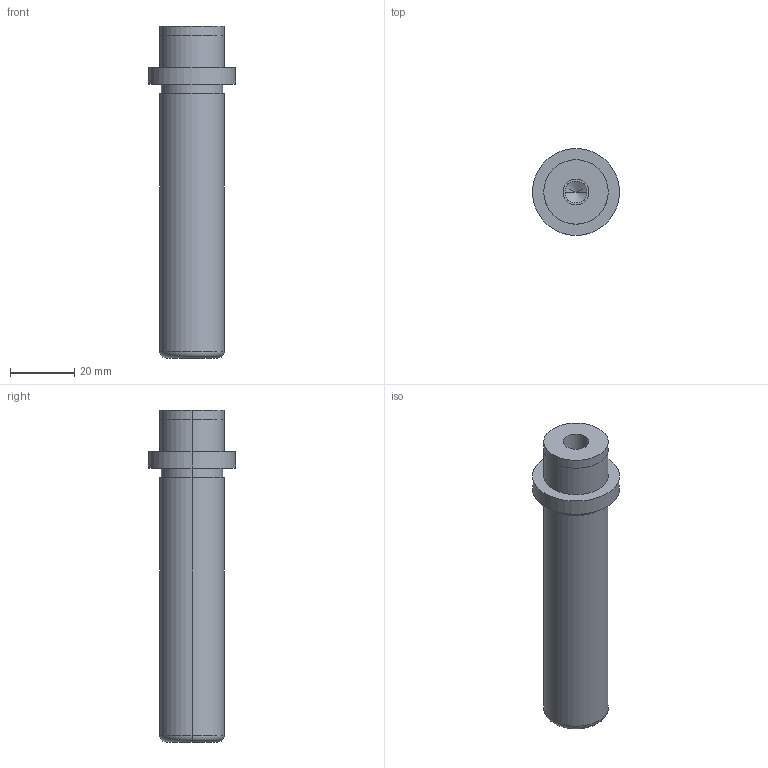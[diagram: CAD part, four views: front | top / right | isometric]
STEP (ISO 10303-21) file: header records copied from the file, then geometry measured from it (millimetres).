
FILE_DESCRIPTION(/* description */ (''),/* implementation_level */ '2;1');
FILE_NAME(/* name */ '3d_sgpw20-90_05270_r00.stp',/* time_stamp */ '2011-01-10T14:11:03+09:00',/* author */ ('MISUMI'),/* organization */ (''),/* preprocessor_version */ 'ST-DEVELOPER v11',/* originating_system */ 'UGS - NX 5.0',/* authorisation */ '');
FILE_SCHEMA (('CONFIG_CONTROL_DESIGN'));
Length unit declared in the file: millimetre
Products named in the file (1): 3d_sgpw20-90_05270_r00
Bounding box: 27 x 27 x 103 mm (x, y, z)
Volume: 31504.6 mm3; surface area: 8724.3 mm2
Topology: 1 solids, 1 shells, 31 faces, 64 edges, 38 vertices
Faces by surface type: cylinder 18, plane 7, cone 4, torus 2
Entity records: 890 total; most frequent: DIRECTION 162, CARTESIAN_POINT 130, ORIENTED_EDGE 120, AXIS2_PLACEMENT_3D 70, EDGE_CURVE 60, EDGE_LOOP 38, CIRCLE 38, VERTEX_POINT 38
